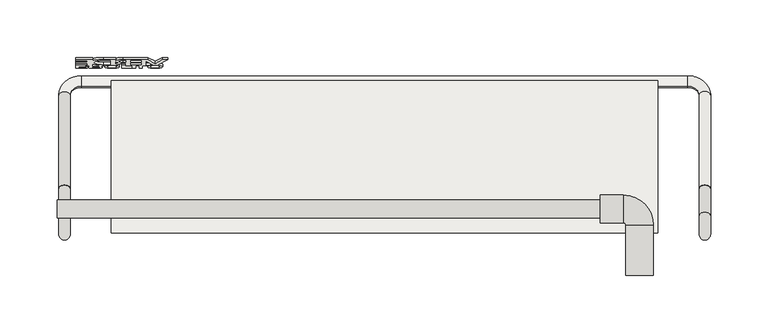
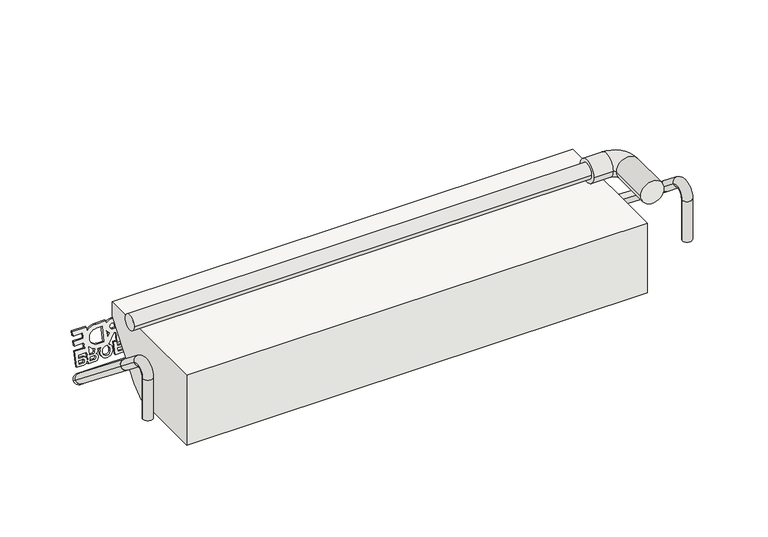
"""IFC4 building model written with IfcOpenShell, lengths in millimetres: covering geometry, panel VP Modulo prova ultima texture : panel VP Modulo prova ultima texture."""

from ifc_helpers import new_model, si_unit, point, frame, frame_2d, origin, place, context, project, spatial, polyline, circle_curve, ellipse_curve, trimmed, segment, composite_curve, outline, extrude, source, transform, mapped, element, save
from ifc_brep_helpers import plane_surface, cylinder_surface, revolved_surface, advanced_brep


def covering_4c2a7df2(model_context):
    return source(origin(), model_context, "Body", "SolidModel", [
        extrude(outline(composite_curve([segment(polyline([(34.7220757, 0.0), (58.7996813, 0.0)]), True, "CONTINUOUS"), segment(trimmed(circle_curve(frame_2d((65.064279, 0.602523)), 6.293506), [point((58.7996813, 0.0))], [point((63.4156115, 6.6762462))], False, "CARTESIAN"), True, "CONTINUOUS"), segment(trimmed(circle_curve(frame_2d((65.6666707, 0.6823428)), 6.4026671), [point((63.4156115, 6.6762462))], [point((68.2653756, -5.1692278))], False, "CARTESIAN"), True, "CONTINUOUS"), segment(trimmed(circle_curve(frame_2d((65.2033193, 0.2002614)), 6.1812298), [point((68.2653756, -5.1692278))], [point((64.2093265, -5.9005239))], False, "CARTESIAN"), True, "CONTINUOUS"), segment(polyline([(64.2093265, -5.9005239), (66.3168222, -11.0476865), (75.8016953, -7.1641235), (76.862281, -9.7544046), (66.3136896, -14.073505), (67.4636632, -16.8820993), (78.0122545, -12.5629989), (79.0728401, -15.1532801), (68.5242488, -19.4723804), (70.7348079, -24.8712559), (61.6931831, -28.5733317), (62.6270622, -30.854156), (73.074875, -33.0832316)]), True, "CONTINUOUS"), segment(trimmed(circle_curve(frame_2d((79.2445531, -34.0648779)), 6.247284), [point((73.074875, -33.0832316))], [point((77.6263487, -28.0308102))], False, "CARTESIAN"), True, "CONTINUOUS"), segment(trimmed(circle_curve(frame_2d((79.8774079, -34.0247137)), 6.4026671), [point((77.6263487, -28.0308102))], [point((82.4790997, -39.8749568))], False, "CARTESIAN"), True, "CONTINUOUS"), segment(trimmed(circle_curve(frame_2d((79.4067187, -34.4842118)), 6.2048092), [point((82.4790997, -39.8749568))], [point((77.0112197, -40.2079555))], False, "CARTESIAN"), True, "CONTINUOUS"), segment(polyline([(77.0112197, -40.2079555), (78.1993614, -43.1097685)]), True, "CONTINUOUS"), segment(trimmed(circle_curve(frame_2d((66.5130173, -47.6019204)), 12.5199867), [point((78.1993614, -43.1097685))], [point((78.4709527, -43.8927629))], False, "CARTESIAN"), True, "CONTINUOUS"), segment(polyline([(78.4709527, -43.8927629), (79.5384705, -43.4513168)]), True, "CONTINUOUS"), segment(trimmed(circle_curve(frame_2d((81.1236564, -46.5289179)), 3.4618554), [point((79.5384705, -43.4513168))], [point((83.2640667, -43.8080567))], False, "CARTESIAN"), True, "CONTINUOUS"), segment(trimmed(circle_curve(frame_2d((86.9930545, -44.5041076)), 3.7933939), [point((83.2640667, -43.8080567))], [point((90.5427254, -43.1663205))], False, "CARTESIAN"), True, "CONTINUOUS"), segment(polyline([(90.5427254, -43.1663205), (93.2835774, -49.8603365), (82.734986, -54.1794369), (86.0955187, -62.3869066), (89.2825225, -61.0819941), (87.602256, -56.9782588)]), True, "CONTINUOUS"), segment(trimmed(circle_curve(frame_2d((91.2496311, -55.4763574)), 3.9444966), [point((87.602256, -56.9782588))], [point((87.6394876, -53.8870441))], False, "CARTESIAN"), True, "CONTINUOUS"), segment(trimmed(circle_curve(frame_2d((91.0795377, -55.4029609)), 3.7592483), [point((87.6394876, -53.8870441))], [point((89.8068056, -51.865716))], False, "CARTESIAN"), True, "CONTINUOUS"), segment(trimmed(circle_curve(frame_2d((91.3826275, -55.3791794)), 3.8506675), [point((89.8068056, -51.865716))], [point((94.9638437, -53.9640714))], False, "CARTESIAN"), True, "CONTINUOUS"), segment(polyline([(94.9638437, -53.9640714), (97.7046956, -60.6580874), (83.1186526, -66.6303146), (79.3291227, -57.3750995), (74.3249247, -59.4240587), (78.1144546, -68.6792738), (74.0770029, -70.3324006), (70.287473, -61.0771855), (65.283275, -63.1261447), (69.0728049, -72.3813598), (65.0353532, -74.0344866), (59.5536494, -60.6464546), (63.573194, -59.0006598)]), True, "CONTINUOUS"), segment(trimmed(circle_curve(frame_2d((67.4307017, -47.2531671)), 12.364625), [point((63.573194, -59.0006598))], [point((55.9786181, -51.9151122))], False, "CARTESIAN"), True, "CONTINUOUS"), segment(polyline([(55.9786181, -51.9151122), (51.9745895, -42.1360245), (54.8949193, -40.940301)]), True, "CONTINUOUS"), segment(trimmed(circle_curve(frame_2d((56.8950263, -33.2916254)), 7.9058629), [point((54.8949193, -40.940301))], [point((49.6285765, -36.4063284))], False, "CARTESIAN"), True, "CONTINUOUS"), segment(polyline([(49.6285765, -36.4063284), (41.306864, -16.0821088), (53.1289126, -4.4511801), (36.5446028, -4.4511801), (34.7220757, 0.0)]), True, "CONTINUOUS")], self_intersect=False), holes=[composite_curve([segment(polyline([(91.3698144, -60.2273564), (94.5568181, -58.9224439), (93.0429627, -55.2251363)]), True, "CONTINUOUS"), segment(trimmed(circle_curve(frame_2d((91.4494607, -55.8775926)), 1.7219023), [point((93.0429627, -55.2251363))], [point((89.8559589, -56.5300488))], True, "CARTESIAN"), True, "CONTINUOUS"), segment(polyline([(89.8559589, -56.5300488), (91.3698144, -60.2273564)]), True, "CONTINUOUS")], self_intersect=False), composite_curve([segment(polyline([(77.6536646, -53.2354383), (84.8614042, -50.2842432), (83.4804082, -46.9114199)]), True, "CONTINUOUS"), segment(trimmed(circle_curve(frame_2d((82.0055188, -47.9798171)), 1.8212006), [point((83.4804082, -46.9114199))], [point((81.4459172, -46.2467223))], True, "CARTESIAN"), True, "CONTINUOUS"), segment(polyline([(81.4459172, -46.2467223), (79.005401, -46.7813864)]), True, "CONTINUOUS"), segment(trimmed(circle_curve(frame_2d((66.800009, -47.5936694)), 12.2323913), [point((79.005401, -46.7813864))], [point((77.6536646, -53.2354383))], False, "CARTESIAN"), True, "CONTINUOUS")], self_intersect=False), composite_curve([segment(polyline([(80.0469884, -37.8463889), (81.818283, -37.1211357)]), True, "CONTINUOUS"), segment(trimmed(circle_curve(frame_2d((80.3714598, -33.8224141)), 3.6020635), [point((81.818283, -37.1211357))], [point((79.0874462, -30.4569765))], True, "CARTESIAN"), True, "CONTINUOUS"), segment(polyline([(79.0874462, -30.4569765), (77.318043, -31.1814552)]), True, "CONTINUOUS"), segment(trimmed(circle_curve(frame_2d((78.7640582, -34.4805346)), 3.6020668), [point((77.318043, -31.1814552))], [point((80.0469884, -37.8463889))], True, "CARTESIAN"), True, "CONTINUOUS")], self_intersect=False), composite_curve([segment(polyline([(64.8767089, 4.25008), (63.1073057, 3.5256013)]), True, "CONTINUOUS"), segment(trimmed(circle_curve(frame_2d((64.5533209, 0.2265218)), 3.6020668), [point((63.1073057, 3.5256013))], [point((65.8362511, -3.1393325))], True, "CARTESIAN"), True, "CONTINUOUS"), segment(polyline([(65.8362511, -3.1393325), (67.6075457, -2.4140793)]), True, "CONTINUOUS"), segment(trimmed(circle_curve(frame_2d((66.1607227, 0.8846423)), 3.6020635), [point((67.6075457, -2.4140793))], [point((64.8767089, 4.25008))], True, "CARTESIAN"), True, "CONTINUOUS")], self_intersect=False), composite_curve([segment(polyline([(49.3862172, -14.3776132), (62.966359, -8.8172503), (61.7031824, -5.7321785), (62.543491, -5.3881158)]), True, "CONTINUOUS"), segment(trimmed(circle_curve(frame_2d((65.2914897, 0.489271)), 6.4880792), [point((62.543491, -5.3881158))], [point((60.2929854, -3.647168))], False, "CARTESIAN"), True, "CONTINUOUS"), segment(polyline([(60.2929854, -3.647168), (49.3862172, -14.3776132)]), True, "CONTINUOUS")], self_intersect=False), polyline([(47.5988019, -19.9351412), (50.9593346, -28.1426109), (55.9635327, -26.0936517), (52.603, -17.8861819), (47.5988019, -19.9351412)]), polyline([(60.0009843, -24.4405249), (65.0051824, -22.3915657), (61.6446497, -14.1840959), (56.6404516, -16.2330552), (60.0009843, -24.4405249)]), composite_curve([segment(polyline([(52.6514049, -32.2754703), (53.692025, -34.8169896)]), True, "CONTINUOUS"), segment(trimmed(circle_curve(frame_2d((56.226554, -33.8697215)), 2.7057631), [point((53.692025, -34.8169896))], [point((58.6823171, -32.7337722))], True, "CARTESIAN"), True, "CONTINUOUS"), segment(polyline([(58.6823171, -32.7337722), (57.6557065, -30.2264687), (52.6514049, -32.2754703)]), True, "CONTINUOUS")], self_intersect=False), composite_curve([segment(polyline([(62.0018449, -38.0303841), (66.4600603, -36.2049764), (63.0935891, -35.4866797)]), True, "CONTINUOUS"), segment(trimmed(circle_curve(frame_2d((53.8245829, -33.01461)), 9.5929977), [point((63.0935891, -35.4866797))], [point((62.0018449, -38.0303841))], False, "CARTESIAN"), True, "CONTINUOUS")], self_intersect=False), composite_curve([segment(polyline([(57.7042151, -44.6157146), (60.0160697, -50.2619853)]), True, "CONTINUOUS"), segment(trimmed(circle_curve(frame_2d((67.1061304, -47.5504315)), 7.5908816), [point((60.0160697, -50.2619853))], [point((74.0619175, -44.5109401))], True, "CARTESIAN"), True, "CONTINUOUS"), segment(polyline([(74.0619175, -44.5109401), (71.7500629, -38.8646693), (57.7042151, -44.6157146)]), True, "CONTINUOUS")], self_intersect=False), composite_curve([segment(polyline([(86.9486961, -49.4296056), (90.1356999, -48.124693), (88.6218444, -44.4273854)]), True, "CONTINUOUS"), segment(trimmed(circle_curve(frame_2d((87.0283425, -45.0798417)), 1.7219023), [point((88.6218444, -44.4273854))], [point((85.4348406, -45.7322979))], True, "CARTESIAN"), True, "CONTINUOUS"), segment(polyline([(85.4348406, -45.7322979), (86.9486961, -49.4296056)]), True, "CONTINUOUS")], self_intersect=False)]), frame((-175.3240629, 210.3688908, 302.3284791), z_axis=(0.0, -0.9769248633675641, 0.21358326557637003), x_axis=(-0.3789159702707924, -0.19765659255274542, -0.9040766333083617)), (0.0, 0.0, 1.0), 2.0),
        extrude(outline(polyline([(76.2116946, -23.2064962), (79.3986984, -21.9015837), (77.1881392, -16.5027082), (79.2754311, -15.6480706), (82.5465758, -23.6372272), (70.9744162, -28.3754256), (69.9138306, -25.7851445), (74.1244027, -24.0611338), (71.9138436, -18.6622584), (74.0011355, -17.8076208), (76.2116946, -23.2064962)])), frame((-175.3240629, 210.3688908, 302.3284791), z_axis=(0.0, -0.9769248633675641, 0.21358326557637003), x_axis=(-0.3789159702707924, -0.19765659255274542, -0.9040766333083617)), (0.0, 0.0, 1.0), 2.0),
        advanced_brep(
        [(-284.4808119, 63.5015434, 366.038463), (-284.4808119, 79.5015434, 366.038463), (187.7808119, 63.5015434, 366.038463), (187.7808119, 79.5015434, 366.038463), (187.7808119, 59.5015434, 366.038463), (187.7808119, 83.5015434, 366.038463), (207.7808119, 59.5015434, 366.038463), (207.7808119, 83.5015434, 366.038463), (209.7808119, 57.5015434, 366.038463), (233.7808119, 57.5015434, 366.038463), (209.7808119, 13.5015434, 366.038463), (233.7808119, 13.5015434, 366.038463)],
        [
            (0, 1, circle_curve(frame((-284.4808119, 71.5015434, 366.038463), z_axis=(-1.0, 0.0, 0.0), x_axis=(0.0, 1.0, 0.0)), 8.0)),
            (1, 0, circle_curve(frame((-284.4808119, 71.5015434, 366.038463), z_axis=(-1.0, 0.0, 0.0), x_axis=(0.0, 1.0, 0.0)), 8.0)),
            (0, 2),
            (2, 3, circle_curve(frame((187.7808119, 71.5015434, 366.038463), z_axis=(-1.0, 0.0, 0.0), x_axis=(0.0, 1.0, 0.0)), 8.0)),
            (3, 1),
            (3, 2, circle_curve(frame((187.7808119, 71.5015434, 366.038463), z_axis=(-1.0, 0.0, 0.0), x_axis=(0.0, 1.0, 0.0)), 8.0)),
            (4, 5, circle_curve(frame((187.7808119, 71.5015434, 366.038463), z_axis=(-1.0, 0.0, 0.0), x_axis=(0.0, 1.0, 0.0)), 12.0)),
            (5, 4, circle_curve(frame((187.7808119, 71.5015434, 366.038463), z_axis=(-1.0, 0.0, 0.0), x_axis=(0.0, 1.0, 0.0)), 12.0)),
            (4, 6),
            (6, 7, circle_curve(frame((207.7808119, 71.5015434, 366.038463), z_axis=(-1.0, 0.0, 0.0), x_axis=(0.0, 1.0, 0.0)), 12.0)),
            (7, 5),
            (7, 6, circle_curve(frame((207.7808119, 71.5015434, 366.038463), z_axis=(-1.0, 0.0, 0.0), x_axis=(0.0, 1.0, 0.0)), 12.0)),
            (6, 8, circle_curve(frame((207.7808119, 57.5015434, 366.038463), z_axis=(0.0, 0.0, -1.0), x_axis=(0.0, 1.0, 0.0)), 2.0)),
            (8, 9, circle_curve(frame((221.7808119, 57.5015434, 366.038463), z_axis=(0.0, 1.0, 0.0), x_axis=(1.0, 0.0, 0.0)), 12.0)),
            (9, 7, circle_curve(frame((207.7808119, 57.5015434, 366.038463), z_axis=(0.0, 0.0, 1.0), x_axis=(0.0, 1.0, 0.0)), 26.0)),
            (9, 8, circle_curve(frame((221.7808119, 57.5015434, 366.038463), z_axis=(0.0, 1.0, 0.0), x_axis=(1.0, 0.0, 0.0)), 12.0)),
            (10, 11, circle_curve(frame((221.7808119, 13.5015434, 366.038463), z_axis=(0.0, -1.0, 0.0), x_axis=(1.0, 0.0, 0.0)), 12.0)),
            (11, 10, circle_curve(frame((221.7808119, 13.5015434, 366.038463), z_axis=(0.0, -1.0, 0.0), x_axis=(1.0, 0.0, 0.0)), 12.0)),
            (8, 10),
            (11, 9),
        ],
        [
            plane_surface(frame((-284.4808119, 63.5015434, 366.038463), z_axis=(-1.0, 0.0, 0.0), x_axis=(0.0, 0.0, 1.0))),
            cylinder_surface(frame((-284.4808119, 71.5015434, 366.038463), z_axis=(-1.0, 0.0, 0.0), x_axis=(0.0, 1.0, 0.0)), 8.0),
            plane_surface(frame((187.7808119, 63.5015434, 366.038463), z_axis=(-1.0, 0.0, 0.0), x_axis=(0.0, 0.0, 1.0))),
            cylinder_surface(frame((187.7808119, 71.5015434, 366.038463), z_axis=(-1.0, 0.0, 0.0), x_axis=(0.0, 1.0, 0.0)), 12.0),
            revolved_surface(trimmed(ellipse_curve(frame((207.7808119, 71.5015434, 366.038463), z_axis=(-1.0, 0.0, 0.0), x_axis=(0.0, 1.0, 0.0)), 12.0, 12.0), [point((207.7808119, 59.5015434, 366.038463))], [point((207.7808119, 83.5015434, 366.038463))], True, "CARTESIAN"), (207.7808119, 57.5015434, 366.038463), (0.0, 0.0, -1.0)),
            revolved_surface(trimmed(ellipse_curve(frame((207.7808119, 71.5015434, 366.038463), z_axis=(-1.0, 0.0, 0.0), x_axis=(0.0, 1.0, 0.0)), 12.0, 12.0), [point((207.7808119, 83.5015434, 366.038463))], [point((207.7808119, 59.5015434, 366.038463))], True, "CARTESIAN"), (207.7808119, 57.5015434, 366.038463), (0.0, 0.0, -1.0)),
            plane_surface(frame((213.7808119, 13.5015434, 366.038463), z_axis=(0.0, -1.0, 0.0), x_axis=(0.0, 0.0, 1.0))),
            cylinder_surface(frame((221.7808119, 57.5015434, 366.038463), z_axis=(0.0, 1.0, 0.0), x_axis=(1.0, 0.0, 0.0)), 12.0),
        ],
        [
            (0, [[1, 2]]),
            (1, [[-1, 3, 4, 5]]),
            (1, [[-2, -5, 6, -3]]),
            (2, [[7, 8], [-4, -6]]),
            (3, [[-7, 9, 10, 11]]),
            (3, [[-8, -11, 12, -9]]),
            (4, [[-10, 13, 14, 15]]),
            (5, [[-12, -15, 16, -13]]),
            (6, [[17, 18]]),
            (7, [[-14, 19, -18, 20]]),
            (7, [[-16, -20, -17, -19]]),
        ],
    ),
        advanced_brep(
        [(283.4808119, 89.2250572, 306.8404048), (273.4808119, 89.2251428, 306.8405128), (283.4808119, 170.6491384, 242.3205598), (273.4808119, 170.6492239, 242.3206678), (263.4808119, 178.4869122, 236.1101411), (263.4808119, 186.324515, 229.8995064), (-263.4808119, 186.324515, 229.8995064), (-263.4808119, 178.4869122, 236.1101411), (-273.4808119, 170.6492239, 242.3206678), (-283.4808119, 170.6491384, 242.3205598), (-283.4808119, 89.2250494, 306.840411), (-273.4808119, 89.225135, 306.840519)],
        [
            (0, 1, circle_curve(frame((278.4808119, 89.2250572, 306.8404048), z_axis=(0.0, -0.7837688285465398, 0.6210526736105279), x_axis=(1.0, 0.0, 0.0)), 5.0)),
            (1, 0, circle_curve(frame((278.4808119, 89.2250572, 306.8404048), z_axis=(0.0, -0.7837688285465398, 0.6210526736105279), x_axis=(1.0, 0.0, 0.0)), 5.0)),
            (0, 2),
            (2, 3, circle_curve(frame((278.4808119, 170.6491384, 242.3205598), z_axis=(0.0, -0.7837688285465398, 0.6210526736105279), x_axis=(1.0, 0.0, 0.0)), 5.0)),
            (3, 1),
            (3, 2, circle_curve(frame((278.4808119, 170.6491384, 242.3205598), z_axis=(0.0, -0.7837688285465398, 0.6210526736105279), x_axis=(1.0, 0.0, 0.0)), 5.0)),
            (4, 3, circle_curve(frame((263.4808119, 170.6492239, 242.3206678), z_axis=(0.0, -0.6210526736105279, -0.7837688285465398), x_axis=(1.0, 0.0, 0.0)), 10.0)),
            (2, 5, circle_curve(frame((263.4808119, 170.6491384, 242.3205598), z_axis=(0.0, 0.6210526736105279, 0.7837688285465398), x_axis=(1.0, 0.0, 0.0)), 20.0)),
            (5, 4, circle_curve(frame((263.4808119, 182.4056708, 233.0047697), z_axis=(1.0, 0.0, 0.0), x_axis=(0.0, 0.7837688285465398, -0.6210526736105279)), 5.0)),
            (4, 5, circle_curve(frame((263.4808119, 182.4056708, 233.0047697), z_axis=(1.0, 0.0, 0.0), x_axis=(0.0, 0.7837688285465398, -0.6210526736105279)), 5.0)),
            (5, 6),
            (6, 7, circle_curve(frame((-263.4808119, 182.4056708, 233.0047697), z_axis=(1.0, 0.0, 0.0), x_axis=(0.0, 0.7837688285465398, -0.6210526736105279)), 5.0)),
            (7, 4),
            (7, 6, circle_curve(frame((-263.4808119, 182.4056708, 233.0047697), z_axis=(1.0, 0.0, 0.0), x_axis=(0.0, 0.7837688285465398, -0.6210526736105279)), 5.0)),
            (8, 7, circle_curve(frame((-263.4808119, 170.6492239, 242.3206678), z_axis=(0.0, -0.6210526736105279, -0.7837688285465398), x_axis=(0.0, 0.7837688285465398, -0.6210526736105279)), 10.0)),
            (6, 9, circle_curve(frame((-263.4808119, 170.6491384, 242.3205598), z_axis=(0.0, 0.6210526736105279, 0.7837688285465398), x_axis=(0.0, 0.7837688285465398, -0.6210526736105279)), 20.0)),
            (9, 8, circle_curve(frame((-278.4808119, 170.6491384, 242.3205598), z_axis=(0.0, 0.7837688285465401, -0.6210526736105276), x_axis=(-1.0000000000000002, 0.0, 0.0)), 5.0)),
            (8, 9, circle_curve(frame((-278.4808119, 170.6491384, 242.3205598), z_axis=(0.0, 0.7837688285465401, -0.6210526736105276), x_axis=(-1.0000000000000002, 0.0, 0.0)), 5.0)),
            (10, 11, circle_curve(frame((-278.4808119, 89.2250494, 306.840411), z_axis=(0.0, -0.7837688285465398, 0.6210526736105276), x_axis=(-1.0, 0.0, 0.0)), 5.0)),
            (11, 10, circle_curve(frame((-278.4808119, 89.2250494, 306.840411), z_axis=(0.0, -0.7837688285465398, 0.6210526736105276), x_axis=(-1.0, 0.0, 0.0)), 5.0)),
            (9, 10),
            (11, 8),
        ],
        [
            plane_surface(frame((273.4808119, 92.3304015, 310.7593511), z_axis=(0.0, -0.7837688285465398, 0.6210526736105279), x_axis=(0.0, -0.6210526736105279, -0.7837688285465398))),
            cylinder_surface(frame((278.4808119, 89.2250572, 306.8404048), z_axis=(0.0, -0.7837688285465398, 0.6210526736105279), x_axis=(1.0, 0.0, 0.0)), 5.0),
            revolved_surface(trimmed(ellipse_curve(frame((278.4808119, 170.6491384, 242.3205598), z_axis=(0.0, -0.7837688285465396, 0.6210526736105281), x_axis=(1.0, 0.0, 0.0)), 5.0, 5.0), [point((283.4808119, 170.6491384, 242.3205598))], [point((273.4808119, 170.6492239, 242.3206678))], True, "CARTESIAN"), (263.4808119, 173.7544827, 246.2395061), (0.0, 0.6210526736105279, 0.7837688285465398)),
            revolved_surface(trimmed(ellipse_curve(frame((278.4808119, 170.6491384, 242.3205598), z_axis=(0.0, -0.7837688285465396, 0.6210526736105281), x_axis=(1.0, 0.0, 0.0)), 5.0, 5.0), [point((273.4808119, 170.6492239, 242.3206678))], [point((283.4808119, 170.6491384, 242.3205598))], True, "CARTESIAN"), (263.4808119, 173.7544827, 246.2395061), (0.0, 0.6210526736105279, 0.7837688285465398)),
            cylinder_surface(frame((263.4808119, 182.4056708, 233.0047697), z_axis=(1.0000000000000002, 0.0, 0.0), x_axis=(0.0, 0.7837688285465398, -0.6210526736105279)), 5.0),
            revolved_surface(trimmed(ellipse_curve(frame((-263.4808119, 182.4056708, 233.0047697), z_axis=(1.0000000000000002, 0.0, 0.0), x_axis=(0.0, 0.7837688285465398, -0.6210526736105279)), 5.0, 5.0), [point((-263.4808119, 186.324515, 229.8995064))], [point((-263.4808119, 178.4869122, 236.1101411))], True, "CARTESIAN"), (-263.4808119, 173.7544827, 246.2395061), (0.0, 0.6210526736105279, 0.7837688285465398)),
            revolved_surface(trimmed(ellipse_curve(frame((-263.4808119, 182.4056708, 233.0047697), z_axis=(1.0000000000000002, 0.0, 0.0), x_axis=(0.0, 0.7837688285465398, -0.6210526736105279)), 5.0, 5.0), [point((-263.4808119, 178.4869122, 236.1101411))], [point((-263.4808119, 186.324515, 229.8995064))], True, "CARTESIAN"), (-263.4808119, 173.7544827, 246.2395061), (0.0, 0.6210526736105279, 0.7837688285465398)),
            plane_surface(frame((-273.4808119, 92.3303937, 310.7593573), z_axis=(0.0, -0.7837688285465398, 0.6210526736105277), x_axis=(0.0, -0.6210526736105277, -0.7837688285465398))),
            cylinder_surface(frame((-278.4808119, 170.6491384, 242.3205598), z_axis=(0.0, 0.7837688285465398, -0.6210526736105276), x_axis=(-1.0, 0.0, 0.0)), 5.0),
        ],
        [
            (0, [[1, 2]]),
            (1, [[-1, 3, 4, 5]]),
            (1, [[-2, -5, 6, -3]]),
            (2, [[7, -4, 8, 9]]),
            (3, [[-8, -6, -7, 10]]),
            (4, [[-9, 11, 12, 13]]),
            (4, [[-10, -13, 14, -11]]),
            (5, [[15, -12, 16, 17]]),
            (6, [[-16, -14, -15, 18]]),
            (7, [[19, 20]]),
            (8, [[-17, 21, -20, 22]]),
            (8, [[-18, -22, -19, -21]]),
        ],
    ),
        advanced_brep(
        [(-273.4808119, 89.225135, 306.840519), (-283.4808119, 89.225135, 306.840519), (-283.4808119, 65.7120701, 325.4720992), (-273.4808119, 65.7120701, 325.4720992), (-273.4808119, 49.5015434, 317.6344109), (-283.4808119, 49.5015434, 317.6344109), (-273.4808119, 49.5015434, 273.3322656), (-283.4808119, 49.5015434, 273.3322656)],
        [
            (0, 1, circle_curve(frame((-278.4808119, 89.225135, 306.840519), z_axis=(0.0, 0.7837688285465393, -0.6210526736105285), x_axis=(-1.0, 0.0, 0.0)), 5.0)),
            (1, 0, circle_curve(frame((-278.4808119, 89.225135, 306.840519), z_axis=(0.0, 0.7837688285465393, -0.6210526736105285), x_axis=(-1.0, 0.0, 0.0)), 5.0)),
            (1, 2),
            (2, 3, circle_curve(frame((-278.4808119, 65.7120701, 325.4720992), z_axis=(0.0, 0.7837688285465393, -0.6210526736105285), x_axis=(-1.0, 0.0, 0.0)), 5.0)),
            (3, 0),
            (3, 2, circle_curve(frame((-278.4808119, 65.7120701, 325.4720992), z_axis=(0.0, 0.7837688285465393, -0.6210526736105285), x_axis=(-1.0, 0.0, 0.0)), 5.0)),
            (4, 3, circle_curve(frame((-273.4808119, 59.5015434, 317.6344109), z_axis=(-1.0, 0.0, 0.0), x_axis=(0.0, 0.6210526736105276, 0.78376882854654)), 10.0)),
            (2, 5, circle_curve(frame((-283.4808119, 59.5015434, 317.6344109), z_axis=(1.0, 0.0, 0.0), x_axis=(0.0, 0.6210526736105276, 0.78376882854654)), 10.0)),
            (5, 4, circle_curve(frame((-278.4808119, 49.5015434, 317.6344109), z_axis=(0.0, 0.0, 1.0), x_axis=(-1.0, 0.0, 0.0)), 5.0)),
            (4, 5, circle_curve(frame((-278.4808119, 49.5015434, 317.6344109), z_axis=(0.0, 0.0, 1.0), x_axis=(-1.0, 0.0, 0.0)), 5.0)),
            (6, 7, circle_curve(frame((-278.4808119, 49.5015434, 273.3322656), z_axis=(0.0, 0.0, -1.0), x_axis=(-1.0, 0.0, 0.0)), 5.0)),
            (7, 6, circle_curve(frame((-278.4808119, 49.5015434, 273.3322656), z_axis=(0.0, 0.0, -1.0), x_axis=(-1.0, 0.0, 0.0)), 5.0)),
            (5, 7),
            (6, 4),
        ],
        [
            plane_surface(frame((-273.4808119, 89.225135, 306.840519), z_axis=(0.0, 0.7837688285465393, -0.6210526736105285), x_axis=(-1.0, 0.0, 0.0))),
            cylinder_surface(frame((-278.4808119, 89.225135, 306.840519), z_axis=(0.0, 0.7837688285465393, -0.6210526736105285), x_axis=(-1.0, 0.0, 0.0)), 5.0),
            revolved_surface(trimmed(ellipse_curve(frame((-278.4808119, 65.7120701, 325.4720992), z_axis=(0.0, 0.78376882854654, -0.6210526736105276), x_axis=(-1.0, 0.0, 0.0)), 5.0, 5.0), [point((-283.4808119, 65.7120701, 325.4720992))], [point((-273.4808119, 65.7120701, 325.4720992))], True, "CARTESIAN"), (-273.4808119, 59.5015434, 317.6344109), (1.0, 0.0, 0.0)),
            revolved_surface(trimmed(ellipse_curve(frame((-278.4808119, 65.7120701, 325.4720992), z_axis=(0.0, 0.78376882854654, -0.6210526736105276), x_axis=(-1.0, 0.0, 0.0)), 5.0, 5.0), [point((-273.4808119, 65.7120701, 325.4720992))], [point((-283.4808119, 65.7120701, 325.4720992))], True, "CARTESIAN"), (-273.4808119, 59.5015434, 317.6344109), (1.0, 0.0, 0.0)),
            plane_surface(frame((-273.4808119, 49.5015434, 273.3322656), z_axis=(0.0, 0.0, -1.0), x_axis=(-1.0, 0.0, 0.0))),
            cylinder_surface(frame((-278.4808119, 49.5015434, 317.6344109), z_axis=(0.0, 0.0, 1.0), x_axis=(-1.0, 0.0, 0.0)), 5.0),
        ],
        [
            (0, [[1, 2]]),
            (1, [[-2, 3, 4, 5]]),
            (1, [[-1, -5, 6, -3]]),
            (2, [[7, -4, 8, 9]]),
            (3, [[-8, -6, -7, 10]]),
            (4, [[11, 12]]),
            (5, [[-9, 13, -11, 14]]),
            (5, [[-10, -14, -12, -13]]),
        ],
    ),
        advanced_brep(
        [(273.4808119, 89.2251242, 306.8404893), (283.4808119, 89.2251242, 306.8404893), (273.4808119, 65.7120779, 325.472093), (283.4808119, 65.7120779, 325.472093), (283.4808119, 49.5015434, 317.6344109), (273.4808119, 49.5015434, 317.6344109), (273.4808119, 49.5015434, 273.3322656), (283.4808119, 49.5015434, 273.3322656)],
        [
            (0, 1, circle_curve(frame((278.4808119, 89.2251242, 306.8404893), z_axis=(0.0, 0.7837682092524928, -0.621053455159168), x_axis=(1.0, 0.0, 0.0)), 5.0)),
            (1, 0, circle_curve(frame((278.4808119, 89.2251242, 306.8404893), z_axis=(0.0, 0.7837682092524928, -0.621053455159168), x_axis=(1.0, 0.0, 0.0)), 5.0)),
            (0, 2),
            (2, 3, circle_curve(frame((278.4808119, 65.7120779, 325.472093), z_axis=(0.0, 0.7837682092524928, -0.621053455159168), x_axis=(1.0, 0.0, 0.0)), 5.0)),
            (3, 1),
            (3, 2, circle_curve(frame((278.4808119, 65.7120779, 325.472093), z_axis=(0.0, 0.7837682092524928, -0.621053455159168), x_axis=(1.0, 0.0, 0.0)), 5.0)),
            (4, 3, circle_curve(frame((283.4808119, 59.5015434, 317.6344109), z_axis=(-1.0, 0.0, 0.0), x_axis=(0.0, 0.6210534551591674, 0.7837682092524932)), 10.0)),
            (2, 5, circle_curve(frame((273.4808119, 59.5015434, 317.6344109), z_axis=(1.0, 0.0, 0.0), x_axis=(0.0, 0.6210534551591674, 0.7837682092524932)), 10.0)),
            (5, 4, circle_curve(frame((278.4808119, 49.5015434, 317.6344109), z_axis=(0.0, 0.0, 1.0), x_axis=(1.0, 0.0, 0.0)), 5.0)),
            (4, 5, circle_curve(frame((278.4808119, 49.5015434, 317.6344109), z_axis=(0.0, 0.0, 1.0), x_axis=(1.0, 0.0, 0.0)), 5.0)),
            (6, 7, circle_curve(frame((278.4808119, 49.5015434, 273.3322656), z_axis=(0.0, 0.0, -1.0), x_axis=(1.0, 0.0, 0.0)), 5.0)),
            (7, 6, circle_curve(frame((278.4808119, 49.5015434, 273.3322656), z_axis=(0.0, 0.0, -1.0), x_axis=(1.0, 0.0, 0.0)), 5.0)),
            (5, 6),
            (7, 4),
        ],
        [
            plane_surface(frame((273.4808119, 89.2251242, 306.8404893), z_axis=(0.0, 0.7837682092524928, -0.621053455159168), x_axis=(1.0, 0.0, 0.0))),
            cylinder_surface(frame((278.4808119, 89.2251242, 306.8404893), z_axis=(0.0, 0.7837682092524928, -0.621053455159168), x_axis=(1.0, 0.0, 0.0)), 5.0),
            revolved_surface(trimmed(ellipse_curve(frame((278.4808119, 65.7120779, 325.472093), z_axis=(0.0, 0.7837682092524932, -0.6210534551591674), x_axis=(1.0, 0.0, 0.0)), 5.0, 5.0), [point((273.4808119, 65.7120779, 325.472093))], [point((283.4808119, 65.7120779, 325.472093))], True, "CARTESIAN"), (273.4808119, 59.5015434, 317.6344109), (1.0, 0.0, 0.0)),
            revolved_surface(trimmed(ellipse_curve(frame((278.4808119, 65.7120779, 325.472093), z_axis=(0.0, 0.7837682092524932, -0.6210534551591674), x_axis=(1.0, 0.0, 0.0)), 5.0, 5.0), [point((283.4808119, 65.7120779, 325.472093))], [point((273.4808119, 65.7120779, 325.472093))], True, "CARTESIAN"), (273.4808119, 59.5015434, 317.6344109), (1.0, 0.0, 0.0)),
            plane_surface(frame((273.4808119, 49.5015434, 273.3322656), z_axis=(0.0, 0.0, -1.0), x_axis=(1.0, 0.0, 0.0))),
            cylinder_surface(frame((278.4808119, 49.5015434, 317.6344109), z_axis=(0.0, 0.0, 1.0), x_axis=(1.0, 0.0, 0.0)), 5.0),
        ],
        [
            (0, [[1, 2]]),
            (1, [[-1, 3, 4, 5]]),
            (1, [[-2, -5, 6, -3]]),
            (2, [[7, -4, 8, 9]]),
            (3, [[-8, -6, -7, 10]]),
            (4, [[11, 12]]),
            (5, [[-9, 13, -12, 14]]),
            (5, [[-10, -14, -11, -13]]),
        ],
    ),
        extrude(outline(polyline([(132.1625373, 228.3787994), (50.5015434, 228.3787994), (50.5015434, 304.3787994), (183.4941844, 304.3787994), (183.4941844, 288.7120762), (143.8388149, 238.666981), (132.1625373, 228.3787994)])), frame((-237.7808119, 0.0, 0.0), z_axis=(1.0, 0.0, 0.0), x_axis=(0.0, 1.0, 0.0)), (0.0, 0.0, 1.0), 475.5616238),
    ])


if __name__ == "__main__":
    model = new_model("IFC4")
    model_context = context("Model", 3, world=origin())
    ifc_project = project(units=[si_unit("LENGTHUNIT", "METRE", prefix="MILLI")], contexts=[model_context])
    site = spatial("IfcSite", under=ifc_project)
    building = spatial("IfcBuilding", under=site)
    placement = place(None, origin())
    covering_shape = covering_4c2a7df2(model_context)
    element("IfcCovering", 1, ObjectType="panel VP Modulo prova ultima texture : panel VP Modulo prova ultima texture", at=placement, inside=building, context=model_context, shape_type="MappedRepresentation", body=[
        mapped(covering_shape, transform((0.0, 0.0, 0.0), x_axis=(1.0, 0.0, 0.0), y_axis=(0.0, 1.0, 0.0), z_axis=(0.0, 0.0, 1.0))),
    ])
    save(model, "model.ifc")
